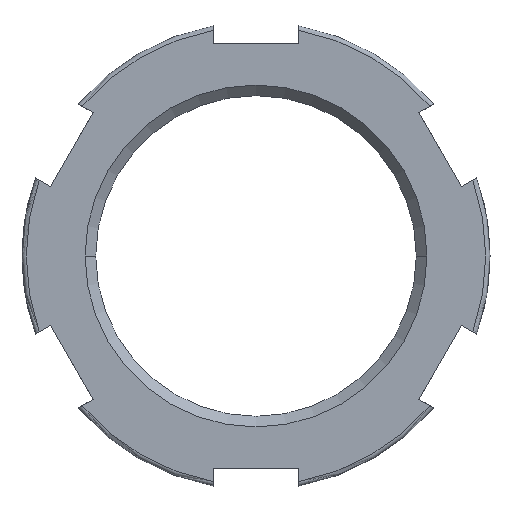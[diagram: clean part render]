
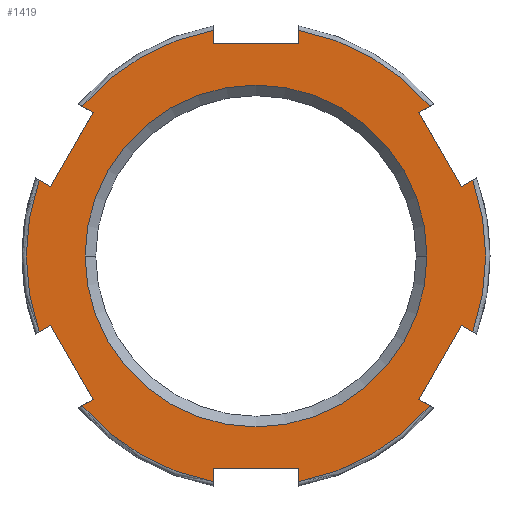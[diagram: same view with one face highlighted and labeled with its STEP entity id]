
A CAD part, front view. The second image highlights one B-rep face of the part: STEP entity #1419.
In plain terms, the highlighted planar face has unit normal (0, -1, 0).
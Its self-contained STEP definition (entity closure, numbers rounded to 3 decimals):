
#60=CARTESIAN_POINT('',(0.,0.,0.));
#61=DIRECTION('',(0.,1.,0.));
#62=DIRECTION('',(-1.,0.,0.));
#63=AXIS2_PLACEMENT_3D('',#60,#61,#62);
#90=DIRECTION('',(0.,0.,-1.));
#91=VECTOR('',#90,0.612);
#92=CARTESIAN_POINT('',(-2.,0.,10.562));
#93=LINE('',#92,#91);
#97=DIRECTION('',(1.,0.,0.));
#98=VECTOR('',#97,4.);
#99=CARTESIAN_POINT('',(-2.,0.,9.95));
#100=LINE('',#99,#98);
#104=DIRECTION('',(0.,0.,-1.));
#105=VECTOR('',#104,0.612);
#106=CARTESIAN_POINT('',(2.,0.,10.562));
#107=LINE('',#106,#105);
#111=DIRECTION('',(-0.866,0.,-0.5));
#112=VECTOR('',#111,0.612);
#113=CARTESIAN_POINT('',(8.147,0.,7.013));
#114=LINE('',#113,#112);
#118=DIRECTION('',(0.5,0.,-0.866));
#119=VECTOR('',#118,4.);
#120=CARTESIAN_POINT('',(7.617,0.,6.707));
#121=LINE('',#120,#119);
#125=DIRECTION('',(0.866,0.,0.5));
#126=VECTOR('',#125,0.612);
#127=CARTESIAN_POINT('',(9.617,0.,3.243));
#128=LINE('',#127,#126);
#132=DIRECTION('',(-0.866,0.,0.5));
#133=VECTOR('',#132,0.612);
#134=CARTESIAN_POINT('',(10.147,0.,-3.549));
#135=LINE('',#134,#133);
#139=DIRECTION('',(-0.5,0.,-0.866));
#140=VECTOR('',#139,4.);
#141=CARTESIAN_POINT('',(9.617,0.,-3.243));
#142=LINE('',#141,#140);
#146=DIRECTION('',(0.866,0.,-0.5));
#147=VECTOR('',#146,0.612);
#148=CARTESIAN_POINT('',(7.617,0.,-6.707));
#149=LINE('',#148,#147);
#153=DIRECTION('',(0.,0.,1.));
#154=VECTOR('',#153,0.612);
#155=CARTESIAN_POINT('',(2.,0.,-10.562));
#156=LINE('',#155,#154);
#160=DIRECTION('',(-1.,0.,0.));
#161=VECTOR('',#160,4.);
#162=CARTESIAN_POINT('',(2.,0.,-9.95));
#163=LINE('',#162,#161);
#167=DIRECTION('',(0.,0.,1.));
#168=VECTOR('',#167,0.612);
#169=CARTESIAN_POINT('',(-2.,0.,-10.562));
#170=LINE('',#169,#168);
#174=DIRECTION('',(0.866,0.,0.5));
#175=VECTOR('',#174,0.612);
#176=CARTESIAN_POINT('',(-8.147,0.,-7.013));
#177=LINE('',#176,#175);
#181=DIRECTION('',(-0.5,0.,0.866));
#182=VECTOR('',#181,4.);
#183=CARTESIAN_POINT('',(-7.617,0.,-6.707));
#184=LINE('',#183,#182);
#188=DIRECTION('',(-0.866,0.,-0.5));
#189=VECTOR('',#188,0.612);
#190=CARTESIAN_POINT('',(-9.617,0.,-3.243));
#191=LINE('',#190,#189);
#195=DIRECTION('',(0.866,0.,-0.5));
#196=VECTOR('',#195,0.612);
#197=CARTESIAN_POINT('',(-10.147,0.,3.549));
#198=LINE('',#197,#196);
#202=DIRECTION('',(0.5,0.,0.866));
#203=VECTOR('',#202,4.);
#204=CARTESIAN_POINT('',(-9.617,0.,3.243));
#205=LINE('',#204,#203);
#209=DIRECTION('',(-0.866,0.,0.5));
#210=VECTOR('',#209,0.612);
#211=CARTESIAN_POINT('',(-7.617,0.,6.707));
#212=LINE('',#211,#210);
#216=CARTESIAN_POINT('',(0.,0.,0.));
#217=DIRECTION('',(0.,-1.,0.));
#218=DIRECTION('',(-1.,0.,0.));
#219=AXIS2_PLACEMENT_3D('',#216,#217,#218);
#281=CARTESIAN_POINT('',(0.,0.,0.));
#282=DIRECTION('',(0.,-1.,0.));
#283=DIRECTION('',(-0.944,0.,0.33));
#284=AXIS2_PLACEMENT_3D('',#281,#282,#283);
#321=CARTESIAN_POINT('',(0.,0.,0.));
#322=DIRECTION('',(0.,-1.,0.));
#323=DIRECTION('',(-0.758,0.,-0.652));
#324=AXIS2_PLACEMENT_3D('',#321,#322,#323);
#361=CARTESIAN_POINT('',(0.,0.,0.));
#362=DIRECTION('',(0.,-1.,0.));
#363=DIRECTION('',(0.186,0.,-0.983));
#364=AXIS2_PLACEMENT_3D('',#361,#362,#363);
#401=CARTESIAN_POINT('',(0.,0.,0.));
#402=DIRECTION('',(0.,-1.,0.));
#403=DIRECTION('',(0.944,0.,-0.33));
#404=AXIS2_PLACEMENT_3D('',#401,#402,#403);
#421=CARTESIAN_POINT('',(0.,0.,0.));
#422=DIRECTION('',(0.,-1.,0.));
#423=DIRECTION('',(-0.186,0.,0.983));
#424=AXIS2_PLACEMENT_3D('',#421,#422,#423);
#481=CARTESIAN_POINT('',(0.,0.,0.));
#482=DIRECTION('',(0.,-1.,0.));
#483=DIRECTION('',(0.758,0.,0.652));
#484=AXIS2_PLACEMENT_3D('',#481,#482,#483);
#1178=CARTESIAN_POINT('',(-10.147,0.,3.549));
#1179=CARTESIAN_POINT('',(-9.617,0.,3.243));
#1180=VERTEX_POINT('',#1178);
#1181=VERTEX_POINT('',#1179);
#1182=CARTESIAN_POINT('',(-7.617,0.,6.707));
#1183=VERTEX_POINT('',#1182);
#1184=CARTESIAN_POINT('',(-8.147,0.,7.013));
#1185=VERTEX_POINT('',#1184);
#1198=CARTESIAN_POINT('',(-8.147,0.,-7.013));
#1199=CARTESIAN_POINT('',(-7.617,0.,-6.707));
#1200=VERTEX_POINT('',#1198);
#1201=VERTEX_POINT('',#1199);
#1202=CARTESIAN_POINT('',(-9.617,0.,-3.243));
#1203=VERTEX_POINT('',#1202);
#1204=CARTESIAN_POINT('',(-10.147,0.,-3.549));
#1205=VERTEX_POINT('',#1204);
#1218=CARTESIAN_POINT('',(2.,0.,-10.562));
#1219=CARTESIAN_POINT('',(2.,0.,-9.95));
#1220=VERTEX_POINT('',#1218);
#1221=VERTEX_POINT('',#1219);
#1222=CARTESIAN_POINT('',(-2.,0.,-9.95));
#1223=VERTEX_POINT('',#1222);
#1224=CARTESIAN_POINT('',(-2.,0.,-10.562));
#1225=VERTEX_POINT('',#1224);
#1238=CARTESIAN_POINT('',(10.147,0.,-3.549));
#1239=CARTESIAN_POINT('',(9.617,0.,-3.243));
#1240=VERTEX_POINT('',#1238);
#1241=VERTEX_POINT('',#1239);
#1242=CARTESIAN_POINT('',(7.617,0.,-6.707));
#1243=VERTEX_POINT('',#1242);
#1244=CARTESIAN_POINT('',(8.147,0.,-7.013));
#1245=VERTEX_POINT('',#1244);
#1258=CARTESIAN_POINT('',(8.147,0.,7.013));
#1259=CARTESIAN_POINT('',(7.617,0.,6.707));
#1260=VERTEX_POINT('',#1258);
#1261=VERTEX_POINT('',#1259);
#1262=CARTESIAN_POINT('',(9.617,0.,3.243));
#1263=VERTEX_POINT('',#1262);
#1264=CARTESIAN_POINT('',(10.147,0.,3.549));
#1265=VERTEX_POINT('',#1264);
#1278=CARTESIAN_POINT('',(-2.,0.,10.562));
#1279=CARTESIAN_POINT('',(-2.,0.,9.95));
#1280=VERTEX_POINT('',#1278);
#1281=VERTEX_POINT('',#1279);
#1282=CARTESIAN_POINT('',(2.,0.,9.95));
#1283=VERTEX_POINT('',#1282);
#1284=CARTESIAN_POINT('',(2.,0.,10.562));
#1285=VERTEX_POINT('',#1284);
#1306=CARTESIAN_POINT('',(-8.,0.,0.));
#1307=CARTESIAN_POINT('',(8.,0.,0.));
#1308=VERTEX_POINT('',#1306);
#1309=VERTEX_POINT('',#1307);
#1359=CARTESIAN_POINT('',(0.,0.,0.));
#1360=DIRECTION('',(0.,-1.,0.));
#1361=DIRECTION('',(1.,0.,0.));
#1362=AXIS2_PLACEMENT_3D('',#1359,#1360,#1361);
#1363=PLANE('',#1362);
#1365=ORIENTED_EDGE('',*,*,#1364,.T.);
#1367=ORIENTED_EDGE('',*,*,#1366,.T.);
#1369=ORIENTED_EDGE('',*,*,#1368,.F.);
#1371=ORIENTED_EDGE('',*,*,#1370,.F.);
#1373=ORIENTED_EDGE('',*,*,#1372,.T.);
#1375=ORIENTED_EDGE('',*,*,#1374,.T.);
#1377=ORIENTED_EDGE('',*,*,#1376,.T.);
#1379=ORIENTED_EDGE('',*,*,#1378,.F.);
#1381=ORIENTED_EDGE('',*,*,#1380,.T.);
#1383=ORIENTED_EDGE('',*,*,#1382,.T.);
#1385=ORIENTED_EDGE('',*,*,#1384,.T.);
#1387=ORIENTED_EDGE('',*,*,#1386,.F.);
#1389=ORIENTED_EDGE('',*,*,#1388,.T.);
#1391=ORIENTED_EDGE('',*,*,#1390,.T.);
#1393=ORIENTED_EDGE('',*,*,#1392,.F.);
#1395=ORIENTED_EDGE('',*,*,#1394,.F.);
#1397=ORIENTED_EDGE('',*,*,#1396,.T.);
#1399=ORIENTED_EDGE('',*,*,#1398,.T.);
#1401=ORIENTED_EDGE('',*,*,#1400,.T.);
#1403=ORIENTED_EDGE('',*,*,#1402,.F.);
#1405=ORIENTED_EDGE('',*,*,#1404,.T.);
#1407=ORIENTED_EDGE('',*,*,#1406,.T.);
#1409=ORIENTED_EDGE('',*,*,#1408,.T.);
#1411=ORIENTED_EDGE('',*,*,#1410,.F.);
#1412=EDGE_LOOP('',(#1365,#1367,#1369,#1371,#1373,#1375,#1377,#1379,#1381,#1383,
#1385,#1387,#1389,#1391,#1393,#1395,#1397,#1399,#1401,#1403,#1405,#1407,#1409,
#1411));
#1413=FACE_OUTER_BOUND('',#1412,.F.);
#1414=ORIENTED_EDGE('',*,*,#1349,.F.);
#1416=ORIENTED_EDGE('',*,*,#1415,.T.);
#1417=EDGE_LOOP('',(#1414,#1416));
#1418=FACE_BOUND('',#1417,.F.);
#64=CIRCLE('',#63,8.);
#220=CIRCLE('',#219,8.);
#285=CIRCLE('',#284,10.75);
#325=CIRCLE('',#324,10.75);
#365=CIRCLE('',#364,10.75);
#405=CIRCLE('',#404,10.75);
#425=CIRCLE('',#424,10.75);
#485=CIRCLE('',#484,10.75);
#1349=EDGE_CURVE('',#1308,#1309,#64,.T.);
#1364=EDGE_CURVE('',#1280,#1281,#93,.T.);
#1366=EDGE_CURVE('',#1281,#1283,#100,.T.);
#1368=EDGE_CURVE('',#1285,#1283,#107,.T.);
#1370=EDGE_CURVE('',#1260,#1285,#485,.T.);
#1372=EDGE_CURVE('',#1260,#1261,#114,.T.);
#1374=EDGE_CURVE('',#1261,#1263,#121,.T.);
#1376=EDGE_CURVE('',#1263,#1265,#128,.T.);
#1378=EDGE_CURVE('',#1240,#1265,#405,.T.);
#1380=EDGE_CURVE('',#1240,#1241,#135,.T.);
#1382=EDGE_CURVE('',#1241,#1243,#142,.T.);
#1384=EDGE_CURVE('',#1243,#1245,#149,.T.);
#1386=EDGE_CURVE('',#1220,#1245,#365,.T.);
#1388=EDGE_CURVE('',#1220,#1221,#156,.T.);
#1390=EDGE_CURVE('',#1221,#1223,#163,.T.);
#1392=EDGE_CURVE('',#1225,#1223,#170,.T.);
#1394=EDGE_CURVE('',#1200,#1225,#325,.T.);
#1396=EDGE_CURVE('',#1200,#1201,#177,.T.);
#1398=EDGE_CURVE('',#1201,#1203,#184,.T.);
#1400=EDGE_CURVE('',#1203,#1205,#191,.T.);
#1402=EDGE_CURVE('',#1180,#1205,#285,.T.);
#1404=EDGE_CURVE('',#1180,#1181,#198,.T.);
#1406=EDGE_CURVE('',#1181,#1183,#205,.T.);
#1408=EDGE_CURVE('',#1183,#1185,#212,.T.);
#1410=EDGE_CURVE('',#1280,#1185,#425,.T.);
#1415=EDGE_CURVE('',#1308,#1309,#220,.T.);
#1419=ADVANCED_FACE('',(#1413,#1418),#1363,.T.);
